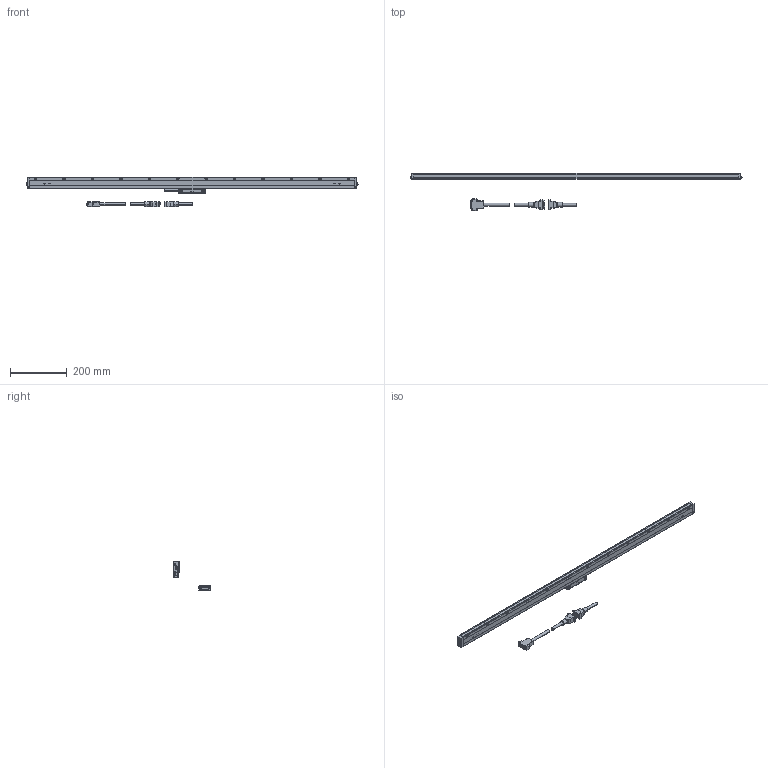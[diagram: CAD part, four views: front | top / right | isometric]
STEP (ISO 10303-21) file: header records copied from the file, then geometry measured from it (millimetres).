
FILE_DESCRIPTION(('Creo Elements/Direct Modeling STEP Export'),'2;1');
FILE_NAME('AT211-1000A.stp','2018-03-15T10:21:26',(''),(''),'Creo Elements/Direct Modeling STEP processor for AP214 (Solid Model)','Creo Elements/Direct Modeling 18.1B 29-Sep-2012 (C) Parametric Technology GmbH','');
FILE_SCHEMA(('AUTOMOTIVE_DESIGN { 1 0 10303 214 1 1 1 1 }'));
Length unit declared in the file: millimetre
Products named in the file (7): Detector_Head; Head_Cable; SignalCable; D-sub15; Cable; AT211_Scale_1000; AT211-1000A
Assembly tree (6 placements, depth 3):
  AT211-1000A
    AT211_Scale_1000
    Cable
      D-sub15
      SignalCable
      Head_Cable
    Detector_Head
Bounding box: 1167.12 x 130.6 x 105 mm (x, y, z)
Volume: 984142.1 mm3; surface area: 190499.5 mm2
Topology: 5 solids, 5 shells, 1099 faces, 2663 edges, 1583 vertices
Faces by surface type: plane 523, cylinder 372, sphere 74, cone 48, torus 38, extrusion 32, revolution 8, bspline 4
Entity records: 35578 total; most frequent: CARTESIAN_POINT 9126, ORIENTED_EDGE 5178, DIRECTION 4890, EDGE_CURVE 2589, AXIS2_PLACEMENT_3D 1729, VERTEX_POINT 1583, VECTOR 1420, LINE 1408
